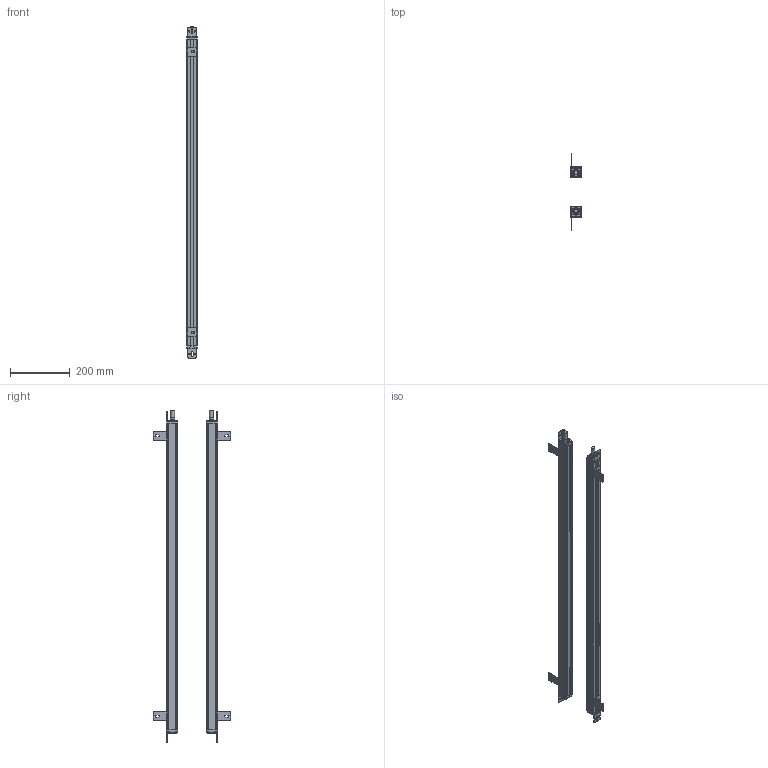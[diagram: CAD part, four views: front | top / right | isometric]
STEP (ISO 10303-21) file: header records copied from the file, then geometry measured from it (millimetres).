
FILE_DESCRIPTION(/* description */ (''),/* implementation_level */ '2;1');
FILE_NAME(/* name */ '5020_35X35_stp.stp',/* time_stamp */ '2023-09-18T16:28:55+08:00',/* author */ (''),/* organization */ (''),/* preprocessor_version */ 'ST-DEVELOPER v16.7',/* originating_system */ 'SIEMENS PLM Software NX 12.0',/* authorisation */ '');
FILE_SCHEMA (('AP203_CONFIGURATION_CONTROLLED_3D_DESIGN_OF_MECHANICAL_PARTS_AND_ASSEMBLIES_MIM_LF { 1 0 10303 403 2 1 2}'));
Length unit declared in the file: millimetre
Products named in the file (1): 5020_35X35_stp_stp
Bounding box: 35.41 x 258.01 x 1111.6 mm (x, y, z)
Volume: 1020464.3 mm3; surface area: 768778.2 mm2
Topology: 28 solids, 28 shells, 1182 faces, 3360 edges, 2260 vertices
Faces by surface type: plane 658, cylinder 464, cone 60
Full cylindrical faces by diameter (mm): 3.2 x8, 6 x24, 13 x2, 14.4 x2, 15 x2
Entity records: 39055 total; most frequent: DIRECTION 6832, CARTESIAN_POINT 6745, ORIENTED_EDGE 6612, EDGE_CURVE 3306, AXIS2_PLACEMENT_3D 2347, VERTEX_POINT 2244, LINE 2138, VECTOR 2138
